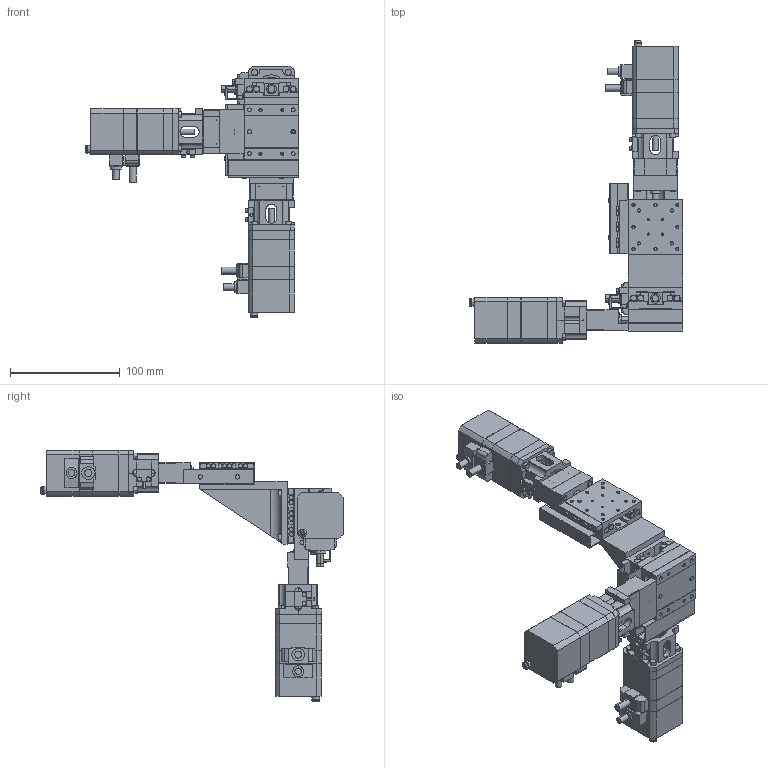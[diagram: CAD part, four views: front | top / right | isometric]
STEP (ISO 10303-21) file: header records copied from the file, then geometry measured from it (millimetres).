
FILE_DESCRIPTION(('STEP AP203'),'1');
FILE_NAME('C:/3D-Trans/3D_PMZG513T-L□-MA4+240129.step','2024-03-14T08:12:22',(' '),(' '),'Spatial InterOp 3D',' ',' ');
FILE_SCHEMA(('CONFIG_CONTROL_DESIGN'));
Length unit declared in the file: millimetre
Products named in the file (19): 1; 2; 3; 4; 5; 6; 7; 8; 9; 10; 11; 12; 13; 14; 15; 16; 17; 18; 19
Bounding box: 195 x 276 x 230 mm (x, y, z)
Volume: 714390.7 mm3; surface area: 204807.2 mm2
Topology: 19 solids, 19 shells, 2257 faces, 5775 edges, 3630 vertices
Faces by surface type: plane 1176, cylinder 785, cone 284, torus 12
Entity records: 69565 total; most frequent: CARTESIAN_POINT 12623, DIRECTION 12111, ORIENTED_EDGE 11382, EDGE_CURVE 5691, AXIS2_PLACEMENT_3D 4214, LINE 3683, VECTOR 3683, VERTEX_POINT 3630
